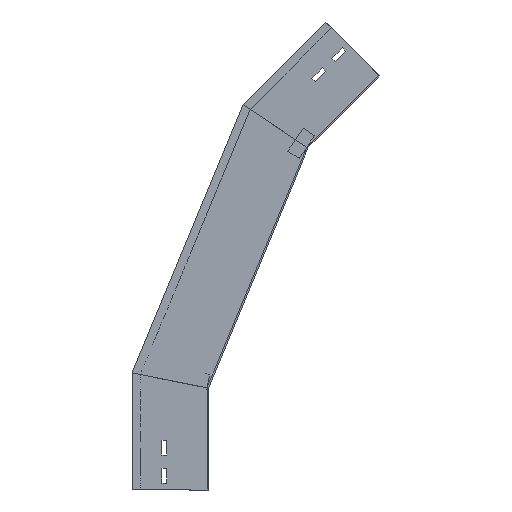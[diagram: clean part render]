
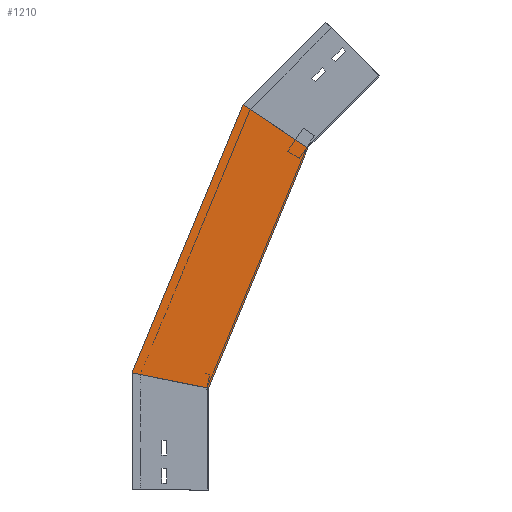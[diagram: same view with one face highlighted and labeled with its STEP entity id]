
A CAD part, left-side view. The second image highlights one B-rep face of the part: STEP entity #1210.
In plain terms, the highlighted planar face has unit normal (-1, 0, 0) as drawn and (1, 0, 0) by its records, which use the part's own axes.
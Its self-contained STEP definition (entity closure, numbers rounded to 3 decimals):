
#7 = VECTOR ( 'NONE', #1018, 1000. ) ;
#14 = DIRECTION ( 'NONE',  ( 0., -0.383, 0.924 ) ) ;
#109 = EDGE_CURVE ( 'NONE', #889, #1212, #1270, .T. ) ;
#114 = CARTESIAN_POINT ( 'NONE',  ( 0., 112.5, 172.378 ) ) ;
#165 = CARTESIAN_POINT ( 'NONE',  ( 0., 0., 150. ) ) ;
#189 = EDGE_LOOP ( 'NONE', ( #1290, #761, #278, #1127 ) ) ;
#278 = ORIENTED_EDGE ( 'NONE', *, *, #1065, .F. ) ;
#356 = VECTOR ( 'NONE', #697, 1000. ) ;
#388 = CARTESIAN_POINT ( 'NONE',  ( 0., 9.458, 127.166 ) ) ;
#472 = DIRECTION ( 'NONE',  ( 0., -0.383, 0.924 ) ) ;
#557 = CARTESIAN_POINT ( 'NONE',  ( 0., -28.701, 144.291 ) ) ;
#592 = CARTESIAN_POINT ( 'NONE',  ( 0., 9.458, 127.166 ) ) ;
#605 = LINE ( 'NONE', #831, #356 ) ;
#629 = VERTEX_POINT ( 'NONE', #962 ) ;
#697 = DIRECTION ( 'NONE',  ( 0., -0.831, -0.556 ) ) ;
#729 = PLANE ( 'NONE',  #1122 ) ;
#761 = ORIENTED_EDGE ( 'NONE', *, *, #1380, .T. ) ;
#831 = CARTESIAN_POINT ( 'NONE',  ( 0., -212.704, 459.655 ) ) ;
#853 = DIRECTION ( 'NONE',  ( 1., 0., 0. ) ) ;
#889 = VERTEX_POINT ( 'NONE', #114 ) ;
#911 = VECTOR ( 'NONE', #472, 1000. ) ;
#929 = LINE ( 'NONE', #1420, #911 ) ;
#944 = VERTEX_POINT ( 'NONE', #1399 ) ;
#962 = CARTESIAN_POINT ( 'NONE',  ( 0., -51.195, 567.572 ) ) ;
#1018 = DIRECTION ( 'NONE',  ( 0., -0.981, -0.195 ) ) ;
#1065 = EDGE_CURVE ( 'NONE', #1212, #944, #1320, .T. ) ;
#1122 = AXIS2_PLACEMENT_3D ( 'NONE', #388, #853, #1336 ) ;
#1127 = ORIENTED_EDGE ( 'NONE', *, *, #109, .F. ) ;
#1210 = ADVANCED_FACE ( 'NONE', ( #1327 ), #729, .T. ) ;
#1212 = VERTEX_POINT ( 'NONE', #165 ) ;
#1270 = LINE ( 'NONE', #557, #7 ) ;
#1290 = ORIENTED_EDGE ( 'NONE', *, *, #1417, .T. ) ;
#1320 = LINE ( 'NONE', #592, #1459 ) ;
#1327 = FACE_OUTER_BOUND ( 'NONE', #189, .T. ) ;
#1336 = DIRECTION ( 'NONE',  ( 0., 0., -1. ) ) ;
#1380 = EDGE_CURVE ( 'NONE', #629, #944, #605, .T. ) ;
#1399 = CARTESIAN_POINT ( 'NONE',  ( 0., -146.568, 503.846 ) ) ;
#1417 = EDGE_CURVE ( 'NONE', #889, #629, #929, .T. ) ;
#1420 = CARTESIAN_POINT ( 'NONE',  ( 0., 113.395, 170.218 ) ) ;
#1459 = VECTOR ( 'NONE', #14, 1000. ) ;
